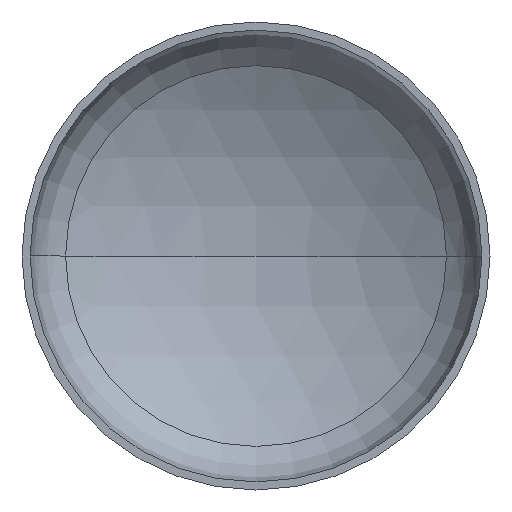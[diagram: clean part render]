
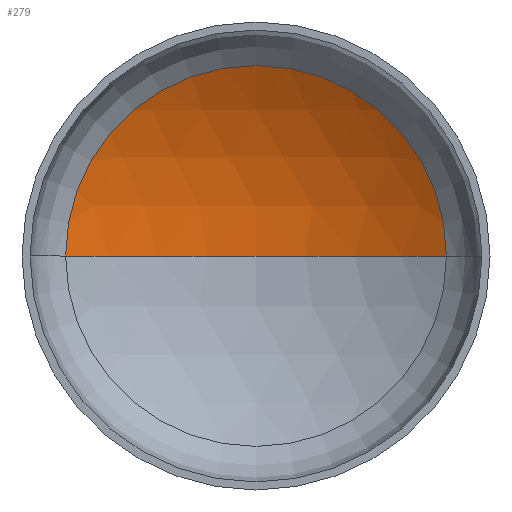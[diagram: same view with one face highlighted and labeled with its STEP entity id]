
A CAD part, front view. The second image highlights one B-rep face of the part: STEP entity #279.
In plain terms, the highlighted spherical face has radius 3600 mm.
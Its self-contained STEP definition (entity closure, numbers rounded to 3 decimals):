
#1 = AXIS2_PLACEMENT_3D ( 'NONE', #386, #166, #338 ) ;
#4 = FACE_OUTER_BOUND ( 'NONE', #16, .T. ) ;
#5 = AXIS2_PLACEMENT_3D ( 'NONE', #406, #407, #273 ) ;
#16 = EDGE_LOOP ( 'NONE', ( #139, #119, #33 ) ) ;
#18 = AXIS2_PLACEMENT_3D ( 'NONE', #290, #177, #379 ) ;
#33 = ORIENTED_EDGE ( 'NONE', *, *, #351, .T. ) ;
#36 = AXIS2_PLACEMENT_3D ( 'NONE', #218, #197, #264 ) ;
#94 = VERTEX_POINT ( 'NONE', #343 ) ;
#96 = VERTEX_POINT ( 'NONE', #335 ) ;
#113 = VERTEX_POINT ( 'NONE', #304 ) ;
#119 = ORIENTED_EDGE ( 'NONE', *, *, #395, .T. ) ;
#139 = ORIENTED_EDGE ( 'NONE', *, *, #391, .F. ) ;
#162 = SPHERICAL_SURFACE ( 'NONE', #36, 3600. ) ;
#166 = DIRECTION ( 'NONE',  ( 0., 0., -1. ) ) ;
#177 = DIRECTION ( 'NONE',  ( 0., -1., 0. ) ) ;
#197 = DIRECTION ( 'NONE',  ( 0., 0., -1. ) ) ;
#199 = CIRCLE ( 'NONE', #1, 3600. ) ;
#205 = CIRCLE ( 'NONE', #18, 1830.361 ) ;
#218 = CARTESIAN_POINT ( 'NONE',  ( 0., -2381.499, 0. ) ) ;
#264 = DIRECTION ( 'NONE',  ( -1., 0., 0. ) ) ;
#266 = CIRCLE ( 'NONE', #5, 3600. ) ;
#273 = DIRECTION ( 'NONE',  ( 1., 0., 0. ) ) ;
#279 = ADVANCED_FACE ( 'NONE', ( #4 ), #162, .F. ) ;
#290 = CARTESIAN_POINT ( 'NONE',  ( 0., 718.465, 0. ) ) ;
#304 = CARTESIAN_POINT ( 'NONE',  ( 1830.361, 718.465, 0. ) ) ;
#335 = CARTESIAN_POINT ( 'NONE',  ( 0., 1218.501, 0. ) ) ;
#338 = DIRECTION ( 'NONE',  ( -1., 0., 0. ) ) ;
#343 = CARTESIAN_POINT ( 'NONE',  ( -1830.361, 718.465, 0. ) ) ;
#351 = EDGE_CURVE ( 'NONE', #113, #94, #205, .T. ) ;
#379 = DIRECTION ( 'NONE',  ( 1., 0., 0. ) ) ;
#386 = CARTESIAN_POINT ( 'NONE',  ( 0., -2381.499, 0. ) ) ;
#391 = EDGE_CURVE ( 'NONE', #96, #94, #266, .T. ) ;
#395 = EDGE_CURVE ( 'NONE', #96, #113, #199, .T. ) ;
#406 = CARTESIAN_POINT ( 'NONE',  ( 0., -2381.499, 0. ) ) ;
#407 = DIRECTION ( 'NONE',  ( 0., 0., 1. ) ) ;
